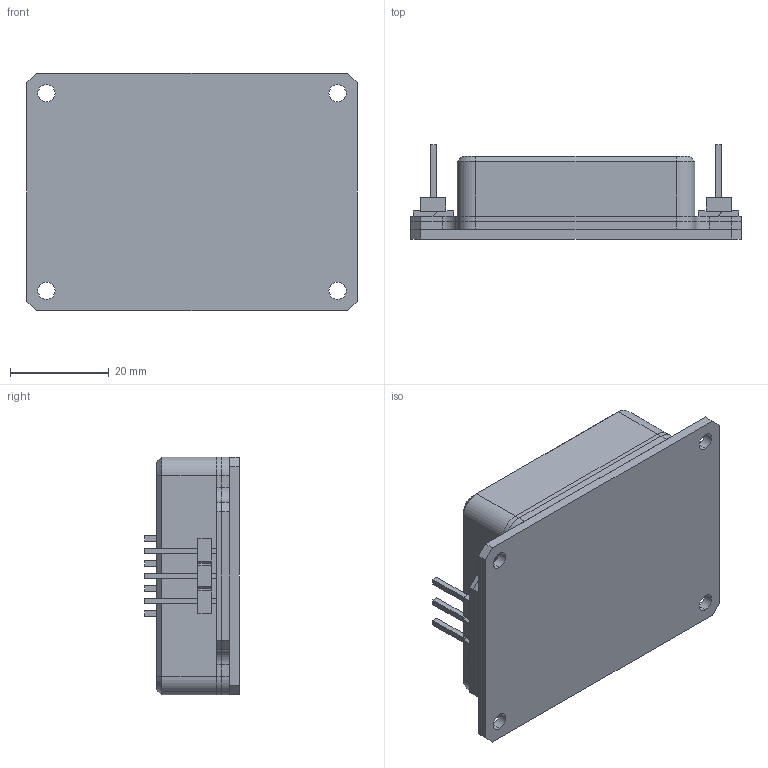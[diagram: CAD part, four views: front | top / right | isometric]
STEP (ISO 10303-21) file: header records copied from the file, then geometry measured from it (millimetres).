
FILE_DESCRIPTION (( 'STEP AP203' ), '1' );
FILE_NAME ('GIL-F200WH.STEP', '2016-10-27T18:00:18', ( 'gregory' ), ( '' ), 'SwSTEP 2.0', 'SolidWorks 2011', '' );
FILE_SCHEMA (( 'CONFIG_CONTROL_DESIGN' ));
Length unit declared in the file: millimetre
Products named in the file (1): GIL-F200WH
Bounding box: 67 x 19.2 x 48.2 mm (x, y, z)
Volume: 42261.5 mm3; surface area: 27084 mm2
Topology: 6 solids, 6 shells, 235 faces, 620 edges, 404 vertices
Faces by surface type: plane 172, cylinder 51, cone 12
Entity records: 7219 total; most frequent: CARTESIAN_POINT 1252, ORIENTED_EDGE 1224, DIRECTION 1190, EDGE_CURVE 612, LINE 506, VECTOR 506, VERTEX_POINT 404, AXIS2_PLACEMENT_3D 342
